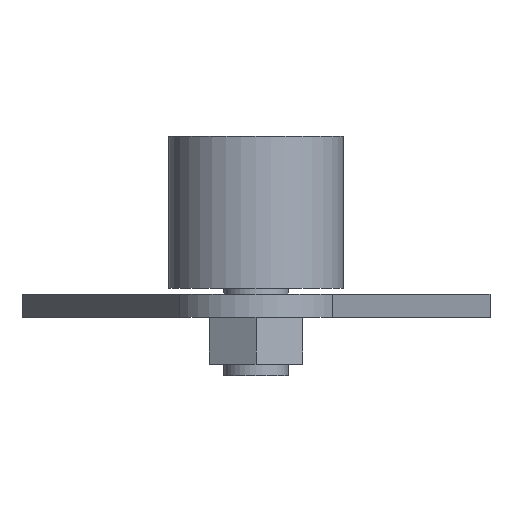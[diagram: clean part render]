
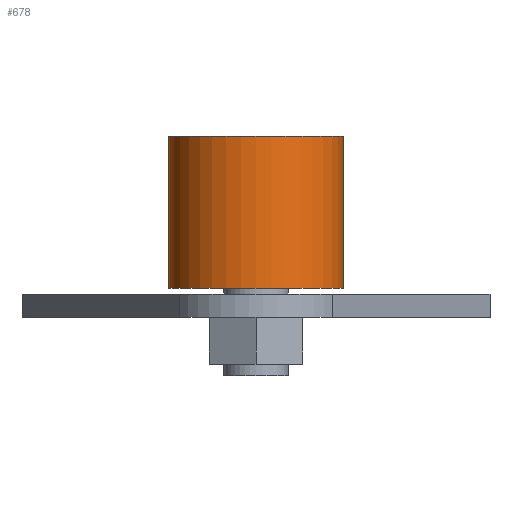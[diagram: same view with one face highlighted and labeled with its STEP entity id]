
A CAD part, front view. The second image highlights one B-rep face of the part: STEP entity #678.
In plain terms, the highlighted free-form (B-spline) face has degree [1, 2] with [2, 9] control points.
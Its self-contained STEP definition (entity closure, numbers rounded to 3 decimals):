
#10 = ORIENTED_EDGE ( 'NONE', *, *, #917, .F. ) ;
#37 = DIRECTION ( 'NONE',  ( 0., 0., 1. ) ) ;
#57 = CARTESIAN_POINT ( 'NONE',  ( 9.032, -23.003, 2.5 ) ) ;
#74 = CARTESIAN_POINT ( 'NONE',  ( -5.968, -23.003, 15.5 ) ) ;
#76 = CARTESIAN_POINT ( 'NONE',  ( 9.032, -23.003, 2.5 ) ) ;
#81 = CARTESIAN_POINT ( 'NONE',  ( -5.968, -30.503, 2.5 ) ) ;
#143 = CIRCLE ( 'NONE', #1102, 7.5 ) ;
#193 = ORIENTED_EDGE ( 'NONE', *, *, #1481, .T. ) ;
#208 = CARTESIAN_POINT ( 'NONE',  ( 9.032, -23.003, 2.5 ) ) ;
#252 = DIRECTION ( 'NONE',  ( 0., 0., 1. ) ) ;
#297 = VERTEX_POINT ( 'NONE', #74 ) ;
#326 = CARTESIAN_POINT ( 'NONE',  ( 9.032, -23.003, 15.5 ) ) ;
#351 = CARTESIAN_POINT ( 'NONE',  ( -5.968, -23.003, 15.5 ) ) ;
#478 = AXIS2_PLACEMENT_3D ( 'NONE', #850, #37, #582 ) ;
#534 = DIRECTION ( 'NONE',  ( -1., 0., 0. ) ) ;
#582 = DIRECTION ( 'NONE',  ( -1., 0., 0. ) ) ;
#634 = EDGE_LOOP ( 'NONE', ( #949, #193, #1600, #10 ) ) ;
#678 = ADVANCED_FACE ( 'NONE', ( #1029 ), #1293, .T. ) ;
#749 = CARTESIAN_POINT ( 'NONE',  ( -5.968, -30.503, 15.5 ) ) ;
#756 = CARTESIAN_POINT ( 'NONE',  ( -5.968, -23.003, 2.5 ) ) ;
#760 = CARTESIAN_POINT ( 'NONE',  ( -5.968, -23.003, 2.5 ) ) ;
#762 = CARTESIAN_POINT ( 'NONE',  ( 9.032, -15.503, 15.5 ) ) ;
#806 = CARTESIAN_POINT ( 'NONE',  ( -5.968, -23.003, 15.5 ) ) ;
#822 = CARTESIAN_POINT ( 'NONE',  ( 9.032, -23.003, 2.5 ) ) ;
#850 = CARTESIAN_POINT ( 'NONE',  ( 1.532, -23.003, 15.5 ) ) ;
#861 = B_SPLINE_CURVE_WITH_KNOTS ( 'NONE', 1,
 ( #1506, #806 ),
 .UNSPECIFIED., .F., .F.,
 ( 2, 2 ),
 ( 0., 1.733 ),
 .UNSPECIFIED. ) ;
#913 = CARTESIAN_POINT ( 'NONE',  ( -5.968, -15.503, 15.5 ) ) ;
#917 = EDGE_CURVE ( 'NONE', #297, #929, #944, .T. ) ;
#920 = CARTESIAN_POINT ( 'NONE',  ( 9.032, -30.503, 2.5 ) ) ;
#929 = VERTEX_POINT ( 'NONE', #1308 ) ;
#944 = CIRCLE ( 'NONE', #478, 7.5 ) ;
#949 = ORIENTED_EDGE ( 'NONE', *, *, #1699, .F. ) ;
#967 = EDGE_CURVE ( 'NONE', #1465, #929, #1562, .T. ) ;
#1029 = FACE_OUTER_BOUND ( 'NONE', #634, .T. ) ;
#1051 = CARTESIAN_POINT ( 'NONE',  ( 9.032, -30.503, 15.5 ) ) ;
#1102 = AXIS2_PLACEMENT_3D ( 'NONE', #1503, #252, #534 ) ;
#1182 = CARTESIAN_POINT ( 'NONE',  ( 1.532, -30.503, 2.5 ) ) ;
#1189 = CARTESIAN_POINT ( 'NONE',  ( 9.032, -23.003, 15.5 ) ) ;
#1293 =( BOUNDED_SURFACE ( )  B_SPLINE_SURFACE ( 1, 2, ( 
 ( #208, #920, #1182, #81, #756, #1464, #1329, #1454, #76 ),
 ( #1189, #1051, #1606, #749, #351, #913, #1471, #762, #326 ) ),
 .UNSPECIFIED., .F., .T., .F. ) 
 B_SPLINE_SURFACE_WITH_KNOTS ( ( 2, 2 ),
 ( 3, 2, 2, 2, 3 ),
 ( 0., 1.733 ),
 ( 0., 11.781, 23.562, 35.343, 47.124 ),
 .UNSPECIFIED. ) 
 GEOMETRIC_REPRESENTATION_ITEM ( )  RATIONAL_B_SPLINE_SURFACE ( (
 ( 1., 0.707, 1., 0.707, 1., 0.707, 1., 0.707, 1.),
 ( 1., 0.707, 1., 0.707, 1., 0.707, 1., 0.707, 1.) ) ) 
 REPRESENTATION_ITEM ( '' )  SURFACE ( )  );
#1308 = CARTESIAN_POINT ( 'NONE',  ( 9.032, -23.003, 15.5 ) ) ;
#1329 = CARTESIAN_POINT ( 'NONE',  ( 1.532, -15.503, 2.5 ) ) ;
#1382 = VERTEX_POINT ( 'NONE', #760 ) ;
#1454 = CARTESIAN_POINT ( 'NONE',  ( 9.032, -15.503, 2.5 ) ) ;
#1464 = CARTESIAN_POINT ( 'NONE',  ( -5.968, -15.503, 2.5 ) ) ;
#1465 = VERTEX_POINT ( 'NONE', #822 ) ;
#1471 = CARTESIAN_POINT ( 'NONE',  ( 1.532, -15.503, 15.5 ) ) ;
#1481 = EDGE_CURVE ( 'NONE', #1382, #1465, #143, .T. ) ;
#1482 = CARTESIAN_POINT ( 'NONE',  ( 9.032, -23.003, 15.5 ) ) ;
#1503 = CARTESIAN_POINT ( 'NONE',  ( 1.532, -23.003, 2.5 ) ) ;
#1506 = CARTESIAN_POINT ( 'NONE',  ( -5.968, -23.003, 2.5 ) ) ;
#1562 = B_SPLINE_CURVE_WITH_KNOTS ( 'NONE', 1,
 ( #57, #1482 ),
 .UNSPECIFIED., .F., .F.,
 ( 2, 2 ),
 ( 0., 1.733 ),
 .UNSPECIFIED. ) ;
#1600 = ORIENTED_EDGE ( 'NONE', *, *, #967, .T. ) ;
#1606 = CARTESIAN_POINT ( 'NONE',  ( 1.532, -30.503, 15.5 ) ) ;
#1699 = EDGE_CURVE ( 'NONE', #1382, #297, #861, .T. ) ;
